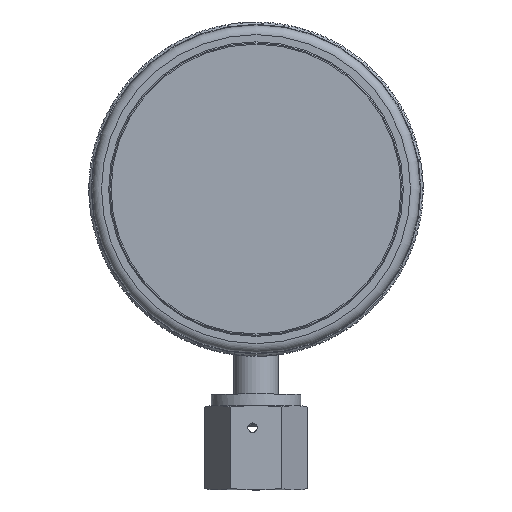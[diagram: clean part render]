
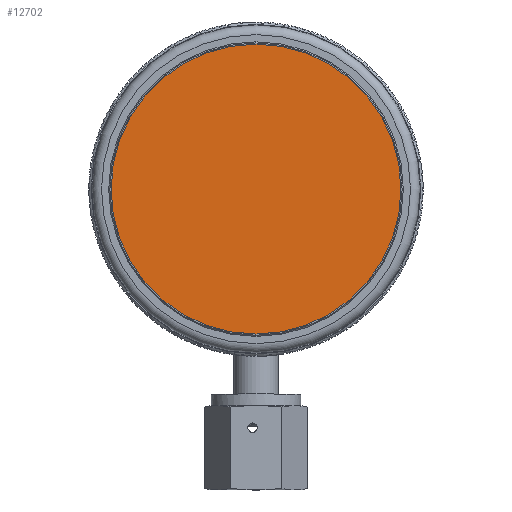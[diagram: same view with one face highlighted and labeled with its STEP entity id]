
A CAD part, top view. The second image highlights one B-rep face of the part: STEP entity #12702.
In plain terms, the highlighted planar face has unit normal (0, 0, 1) as drawn and (-1, 0, 0) by its records, which use the part's own axes.
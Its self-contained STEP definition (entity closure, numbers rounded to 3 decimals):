
#674=PLANE('',#13729);
#4162=FACE_OUTER_BOUND('',#4813,.T.);
#4813=EDGE_LOOP('',(#11877));
#5181=CIRCLE('',#13730,30.999);
#6403=VERTEX_POINT('',#21020);
#8237=EDGE_CURVE('',#6403,#6403,#5181,.T.);
#11877=ORIENTED_EDGE('',*,*,#8237,.F.);
#12702=ADVANCED_FACE('',(#4162),#674,.T.);
#13729=AXIS2_PLACEMENT_3D('',#21019,#16951,#16952);
#13730=AXIS2_PLACEMENT_3D('',#21021,#16953,#16954);
#16951=DIRECTION('center_axis',(-1.,0.,0.));
#16952=DIRECTION('ref_axis',(0.,0.,1.));
#16953=DIRECTION('center_axis',(1.,0.,0.));
#16954=DIRECTION('ref_axis',(0.,1.,0.));
#21019=CARTESIAN_POINT('Origin',(167.935,124.308,0.));
#21020=CARTESIAN_POINT('',(167.935,77.809,0.));
#21021=CARTESIAN_POINT('Origin',(167.935,108.808,0.));
